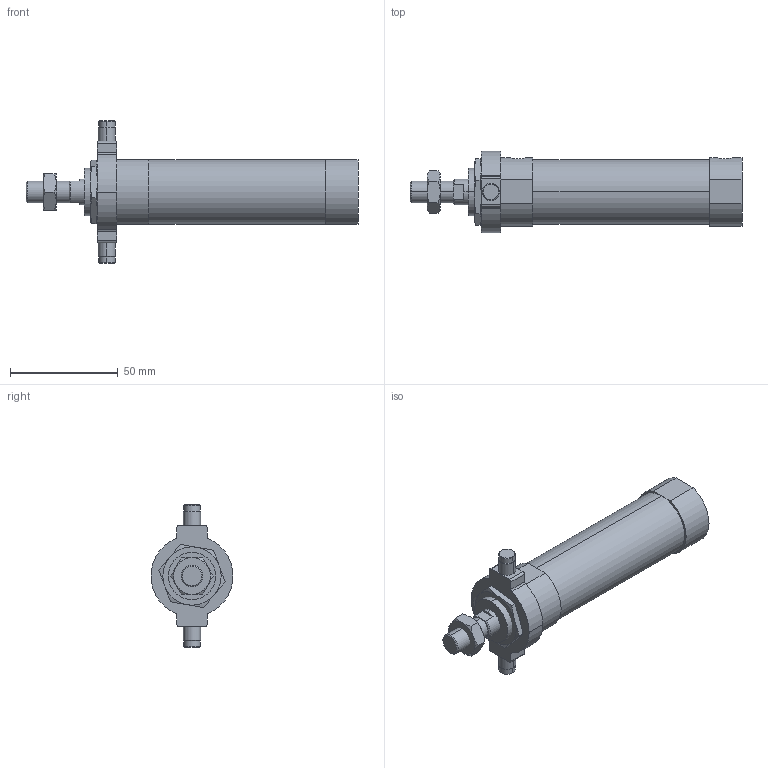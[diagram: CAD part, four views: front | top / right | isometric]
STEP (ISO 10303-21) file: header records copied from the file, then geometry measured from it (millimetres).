
FILE_DESCRIPTION (( 'STEP AP203' ), '1' );
FILE_NAME ('JGND2-25-50-T.STEP', '2016-08-04T02:37:28', ( '' ), ( '' ), 'SwSTEP 2.0', 'SolidWorks 2014', '' );
FILE_SCHEMA (( 'CONFIG_CONTROL_DESIGN' ));
Length unit declared in the file: millimetre
Products named in the file (5): JGND2-25-50-T; J#2-25-50(P); J#2-25-T
Assembly tree (4 placements, depth 2):
  JGND2-25-50-T
    J#2-25-50(P)
    (unnamed)
    J#2-25-T
    (unnamed)
Bounding box: 154 x 38 x 66 mm (x, y, z)
Volume: 97651.6 mm3; surface area: 21641 mm2
Topology: 4 solids, 4 shells, 128 faces, 291 edges, 174 vertices
Faces by surface type: plane 45, cylinder 43, torus 24, cone 16
Entity records: 4380 total; most frequent: CARTESIAN_POINT 1020, DIRECTION 619, ORIENTED_EDGE 574, EDGE_CURVE 287, AXIS2_PLACEMENT_3D 253, VERTEX_POINT 174, EDGE_LOOP 141, ADVANCED_FACE 128
